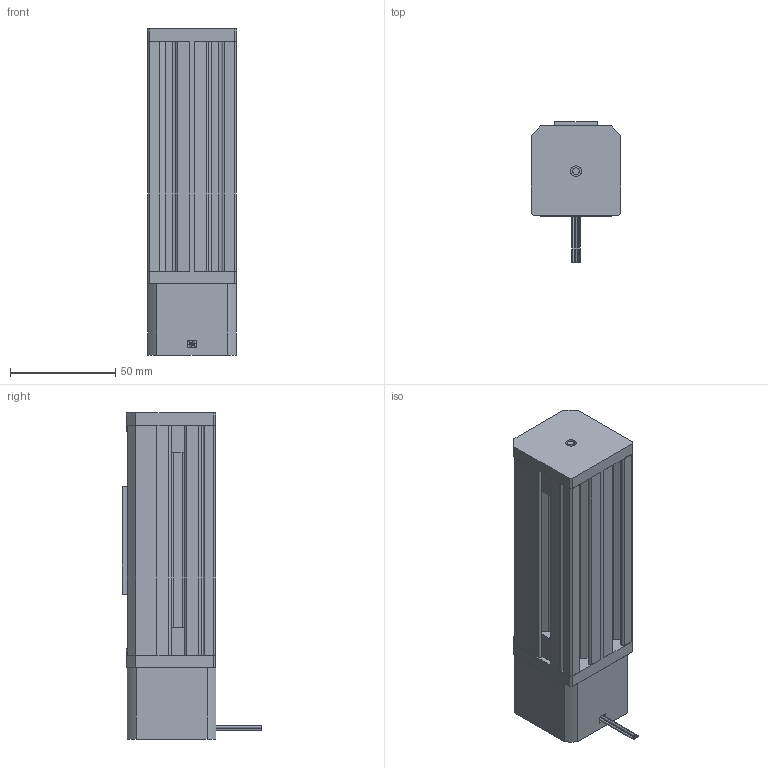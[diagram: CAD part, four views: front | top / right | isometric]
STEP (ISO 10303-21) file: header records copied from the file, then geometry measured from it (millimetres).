
FILE_DESCRIPTION (( 'STEP AP214' ), '1' );
FILE_NAME ('AMETEK-Motor-X43H4N-5-4 Slide-X43-A0050-NBN.STEP', '2022-03-03T15:50:50', ( '' ), ( '' ), 'SwSTEP 2.0', 'SolidWorks 2021', '' );
FILE_SCHEMA (( 'AUTOMOTIVE_DESIGN' ));
Length unit declared in the file: millimetre
Products named in the file (4): AMETEK-Motor-X43H4N-5-4  Slide-X43-A0050-NBN; 17 Single Stack_Single Stack Bottom Wires; RAIL_Cut; BLOCK_Dual Pin
Assembly tree (3 placements, depth 2):
  AMETEK-Motor-X43H4N-5-4  Slide-X43-A0050-NBN
    RAIL_Cut
    17 Single Stack_Single Stack Bottom Wires
    BLOCK_Dual Pin
Bounding box: 42.5 x 66.42 x 154.8 mm (x, y, z)
Volume: 184116.4 mm3; surface area: 65284.3 mm2
Topology: 3 solids, 3 shells, 283 faces, 766 edges, 498 vertices
Faces by surface type: plane 159, cylinder 110, cone 14
Entity records: 10288 total; most frequent: DIRECTION 1560, CARTESIAN_POINT 1541, ORIENTED_EDGE 1508, EDGE_CURVE 754, VECTOR 526, LINE 526, AXIS2_PLACEMENT_3D 517, VERTEX_POINT 498
